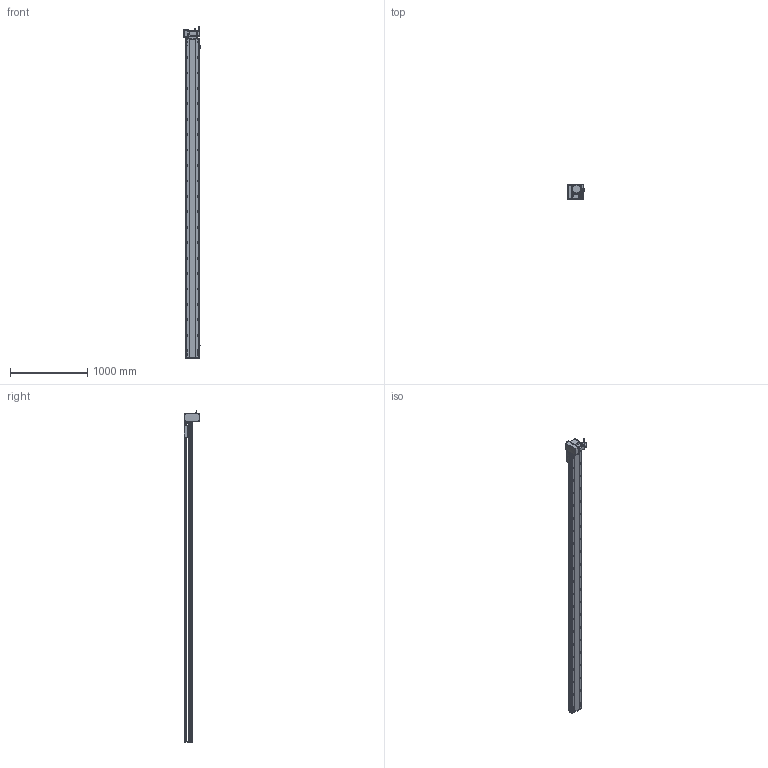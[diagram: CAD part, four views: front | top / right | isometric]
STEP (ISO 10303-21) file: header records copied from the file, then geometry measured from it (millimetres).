
FILE_DESCRIPTION (( 'STEP AP214' ), '1' );
FILE_NAME ('RTB17S-XX-3850-LM-M75-C4.STEP', '2025-12-12T00:54:43', ( '' ), ( '' ), 'SwSTEP 2.0', 'SolidWorks 2018', '' );
FILE_SCHEMA (( 'AUTOMOTIVE_DESIGN' ));
Length unit declared in the file: millimetre
Products named in the file (15): RTB17S-L-007奻裔^RTB17S-XX-XX-LM-M75-C4; RTB22S-GY-017P^RTB17S-LM-々湍釱蚾饜-750W_RTB17S-XX-XX-LM-M75-C4; RTB17S-LM-々湍釱蚾饜-750W^RTB17S-XX-XX-LM-M75-C4; RTB17S-L-001-耜醱啣^RTB17S-XX-XX-LM-M75-C4; EE672^RTB17S-XX-XX-LM-M75-C4; RTB22S-GY-018P^RTB17S-LM-々湍釱蚾饜-750W_RTB17S-XX-XX-LM-M75-C4; RTB17S-XX-3850-LM-M75-C4; RTB22S-GY-008-M75--萇儂啣^RTB17S-LM-々湍釱蚾饜-750W_RTB17S-XX-XX-LM-M75-C4; RTB17S-L-014-T20-P75--々湍釱^RTB17S-LM-々湍釱蚾饜-750W_RTB17S-XX-XX-LM-M75-C4; RTH13-BL-012覜茼え俋离^RTB17S-賑釱_RTB17S-XX-XX-LM-M75-C4; RTB17S-L-004-賑釱^RTB17S-賑釱_RTB17S-XX-XX-LM-M75-C4; RTB17S-賑釱^RTB17S-XX-XX-LM-M75-C4; RTB22S-GY-005P^RTB17S-LM-々湍釱蚾饜-750W_RTB17S-XX-XX-LM-M75-C4; RTB17-R-011菁釱^RTB17S-XX-XX-LM-M75-C4; 750W萇儂^RTB17S-XX-XX-LM-M75-C4
Assembly tree (17 placements, depth 3):
  RTB17S-XX-3850-LM-M75-C4
    RTB17-R-011菁釱^RTB17S-XX-XX-LM-M75-C4
    EE672^RTB17S-XX-XX-LM-M75-C4  x3
    RTB17S-L-001-耜醱啣^RTB17S-XX-XX-LM-M75-C4
    RTB17S-賑釱^RTB17S-XX-XX-LM-M75-C4
      RTB17S-L-004-賑釱^RTB17S-賑釱_RTB17S-XX-XX-LM-M75-C4
      RTH13-BL-012覜茼え俋离^RTB17S-賑釱_RTB17S-XX-XX-LM-M75-C4
    RTB17S-L-007奻裔^RTB17S-XX-XX-LM-M75-C4
    750W萇儂^RTB17S-XX-XX-LM-M75-C4
    RTB17S-LM-々湍釱蚾饜-750W^RTB17S-XX-XX-LM-M75-C4
      RTB17S-L-014-T20-P75--々湍釱^RTB17S-LM-々湍釱蚾饜-750W_RTB17S-XX-XX-LM-M75-C4
      RTB22S-GY-005P^RTB17S-LM-々湍釱蚾饜-750W_RTB17S-XX-XX-LM-M75-C4
      RTB22S-GY-017P^RTB17S-LM-々湍釱蚾饜-750W_RTB17S-XX-XX-LM-M75-C4  x2
      RTB22S-GY-008-M75--萇儂啣^RTB17S-LM-々湍釱蚾饜-750W_RTB17S-XX-XX-LM-M75-C4
      RTB22S-GY-018P^RTB17S-LM-々湍釱蚾饜-750W_RTB17S-XX-XX-LM-M75-C4
Bounding box: 210.4 x 200 x 4302.2 mm (x, y, z)
Volume: 30011699.6 mm3; surface area: 5573456 mm2
Topology: 17 solids, 17 shells, 2329 faces, 6592 edges, 4274 vertices
Faces by surface type: plane 1000, cylinder 913, bspline 294, cone 110, sphere 8, torus 4
Entity records: 69622 total; most frequent: CARTESIAN_POINT 20856, ORIENTED_EDGE 10028, DIRECTION 9212, EDGE_CURVE 5014, AXIS2_PLACEMENT_3D 3294, VERTEX_POINT 3278, VECTOR 2624, LINE 2624
